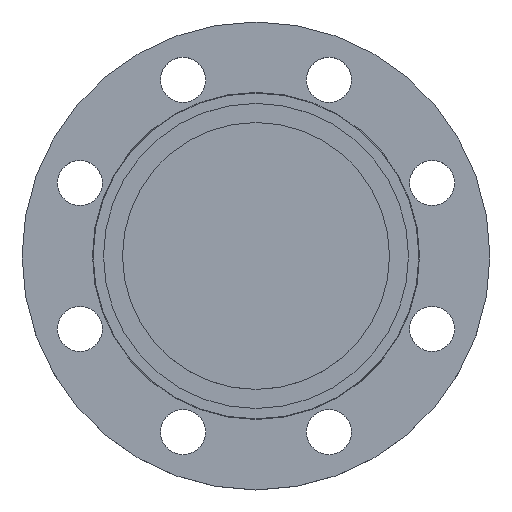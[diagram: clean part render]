
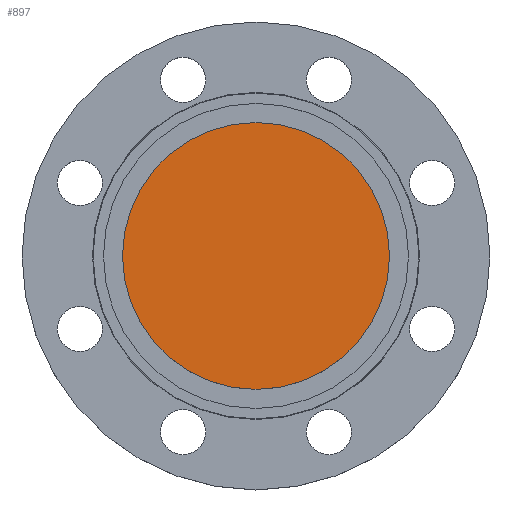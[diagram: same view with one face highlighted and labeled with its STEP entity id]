
A CAD part, top view. The second image highlights one B-rep face of the part: STEP entity #897.
In plain terms, the highlighted planar face has unit normal (0, 0, 1).
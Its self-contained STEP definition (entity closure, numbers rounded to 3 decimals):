
#11 = CARTESIAN_POINT ( 'NONE',  ( -77., 0., 0. ) ) ;
#58 = CIRCLE ( 'NONE', #242, 77. ) ;
#108 = EDGE_CURVE ( 'NONE', #1043, #650, #58, .T. ) ;
#115 = AXIS2_PLACEMENT_3D ( 'NONE', #328, #320, #324 ) ;
#125 = CARTESIAN_POINT ( 'NONE',  ( 77., 0., 0. ) ) ;
#242 = AXIS2_PLACEMENT_3D ( 'NONE', #415, #417, #419 ) ;
#255 = EDGE_LOOP ( 'NONE', ( #857, #861 ) ) ;
#273 = EDGE_CURVE ( 'NONE', #650, #1043, #346, .T. ) ;
#320 = DIRECTION ( 'NONE',  ( 0., 0., 1. ) ) ;
#324 = DIRECTION ( 'NONE',  ( 1., 0., 0. ) ) ;
#328 = CARTESIAN_POINT ( 'NONE',  ( 0., 0., 0. ) ) ;
#338 = PLANE ( 'NONE',  #115 ) ;
#340 = FACE_OUTER_BOUND ( 'NONE', #255, .T. ) ;
#346 = CIRCLE ( 'NONE', #351, 77. ) ;
#351 = AXIS2_PLACEMENT_3D ( 'NONE', #464, #465, #468 ) ;
#415 = CARTESIAN_POINT ( 'NONE',  ( 0., 0., 0. ) ) ;
#417 = DIRECTION ( 'NONE',  ( 0., 0., -1. ) ) ;
#419 = DIRECTION ( 'NONE',  ( -1., 0., 0. ) ) ;
#464 = CARTESIAN_POINT ( 'NONE',  ( 0., 0., 0. ) ) ;
#465 = DIRECTION ( 'NONE',  ( 0., 0., -1. ) ) ;
#468 = DIRECTION ( 'NONE',  ( -1., 0., 0. ) ) ;
#650 = VERTEX_POINT ( 'NONE', #11 ) ;
#857 = ORIENTED_EDGE ( 'NONE', *, *, #273, .F. ) ;
#861 = ORIENTED_EDGE ( 'NONE', *, *, #108, .F. ) ;
#897 = ADVANCED_FACE ( 'NONE', ( #340 ), #338, .T. ) ;
#1043 = VERTEX_POINT ( 'NONE', #125 ) ;
